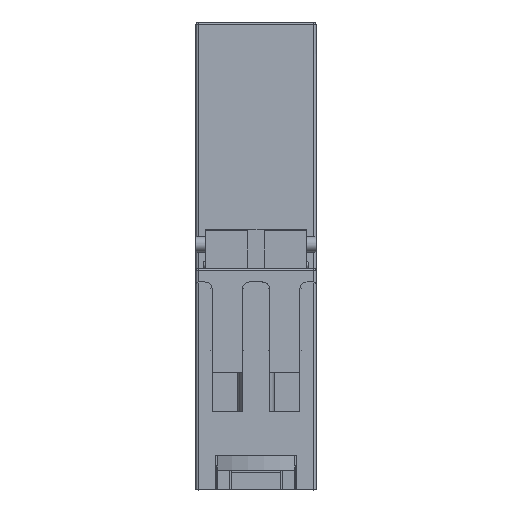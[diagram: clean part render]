
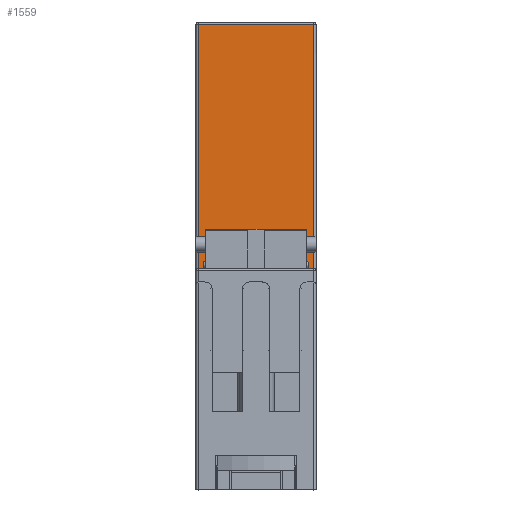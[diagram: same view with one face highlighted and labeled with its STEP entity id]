
A CAD part, left-side view. The second image highlights one B-rep face of the part: STEP entity #1559.
In plain terms, the highlighted planar face has unit normal (-1, 0, 0.009).
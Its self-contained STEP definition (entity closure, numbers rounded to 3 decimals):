
#864=PLANE('',#15522);
#1559=ADVANCED_FACE('',(#2388),#864,.T.);
#2388=FACE_OUTER_BOUND('',#3255,.T.);
#3255=EDGE_LOOP('',(#9809,#9810,#9811,#9812,#9813,#9814,#9815,#9816,#9817,
#9818,#9819,#9820));
#4048=LINE('',#31558,#5799);
#4067=LINE('',#31608,#5818);
#4074=LINE('',#31622,#5825);
#4167=LINE('',#31822,#5918);
#4442=LINE('',#32423,#6193);
#4451=LINE('',#32442,#6202);
#4453=LINE('',#32446,#6204);
#4727=LINE('',#33050,#6478);
#4728=LINE('',#33052,#6479);
#4839=LINE('',#33387,#6590);
#4840=LINE('',#33390,#6591);
#4841=LINE('',#33391,#6592);
#5799=VECTOR('',#16838,1.);
#5818=VECTOR('',#16873,1.);
#5825=VECTOR('',#16884,1.);
#5918=VECTOR('',#17013,1.);
#6193=VECTOR('',#17502,1.);
#6202=VECTOR('',#17523,1.);
#6204=VECTOR('',#17529,1.);
#6478=VECTOR('',#18129,1.);
#6479=VECTOR('',#18132,1.);
#6590=VECTOR('',#18459,1.);
#6591=VECTOR('',#18460,1.);
#6592=VECTOR('',#18461,1.);
#9809=ORIENTED_EDGE('',*,*,#14118,.T.);
#9810=ORIENTED_EDGE('',*,*,#14119,.T.);
#9811=ORIENTED_EDGE('',*,*,#13975,.F.);
#9812=ORIENTED_EDGE('',*,*,#13228,.F.);
#9813=ORIENTED_EDGE('',*,*,#13253,.F.);
#9814=ORIENTED_EDGE('',*,*,#13974,.F.);
#9815=ORIENTED_EDGE('',*,*,#13360,.F.);
#9816=ORIENTED_EDGE('',*,*,#13675,.F.);
#9817=ORIENTED_EDGE('',*,*,#13677,.F.);
#9818=ORIENTED_EDGE('',*,*,#13260,.F.);
#9819=ORIENTED_EDGE('',*,*,#13665,.F.);
#9820=ORIENTED_EDGE('',*,*,#14120,.T.);
#11744=VERTEX_POINT('',#31557);
#11745=VERTEX_POINT('',#31559);
#11766=VERTEX_POINT('',#31606);
#11771=VERTEX_POINT('',#31620);
#11773=VERTEX_POINT('',#31623);
#11861=VERTEX_POINT('',#31821);
#11862=VERTEX_POINT('',#31823);
#12080=VERTEX_POINT('',#32422);
#12084=VERTEX_POINT('',#32441);
#12252=VERTEX_POINT('',#33053);
#12312=VERTEX_POINT('',#33388);
#12313=VERTEX_POINT('',#33389);
#13228=EDGE_CURVE('',#11744,#11745,#4048,.T.);
#13253=EDGE_CURVE('',#11766,#11744,#4067,.T.);
#13260=EDGE_CURVE('',#11771,#11773,#4074,.T.);
#13360=EDGE_CURVE('',#11861,#11862,#4167,.T.);
#13665=EDGE_CURVE('',#12080,#11771,#4442,.T.);
#13675=EDGE_CURVE('',#12084,#11861,#4451,.T.);
#13677=EDGE_CURVE('',#11773,#12084,#4453,.T.);
#13974=EDGE_CURVE('',#11862,#11766,#4727,.T.);
#13975=EDGE_CURVE('',#11745,#12252,#4728,.T.);
#14118=EDGE_CURVE('',#12312,#12313,#4839,.T.);
#14119=EDGE_CURVE('',#12313,#12252,#4840,.T.);
#14120=EDGE_CURVE('',#12080,#12312,#4841,.T.);
#15522=AXIS2_PLACEMENT_3D('',#33392,#18462,#18463);
#16838=DIRECTION('',(-0.009,0.,-1.));
#16873=DIRECTION('',(0.,1.,0.));
#16884=DIRECTION('',(0.009,0.,1.));
#17013=DIRECTION('',(0.,1.,0.));
#17502=DIRECTION('',(0.,1.,0.));
#17523=DIRECTION('',(0.009,0.,1.));
#17529=DIRECTION('',(0.,1.,0.));
#18129=DIRECTION('',(-0.009,0.,-1.));
#18132=DIRECTION('',(0.,1.,0.));
#18459=DIRECTION('',(0.,1.,0.));
#18460=DIRECTION('',(-0.009,0.,-1.));
#18461=DIRECTION('',(0.009,0.,1.));
#18462=DIRECTION('',(-1.,0.,0.009));
#18463=DIRECTION('',(0.009,0.,1.));
#31557=CARTESIAN_POINT('',(26.853,14.45,29.75));
#31558=CARTESIAN_POINT('',(26.854,14.45,29.896));
#31559=CARTESIAN_POINT('',(26.8,14.45,23.75));
#31606=CARTESIAN_POINT('',(26.853,12.15,29.75));
#31608=CARTESIAN_POINT('',(26.853,15.7,29.75));
#31620=CARTESIAN_POINT('',(26.8,1.25,23.75));
#31622=CARTESIAN_POINT('',(27.1,1.25,57.75));
#31623=CARTESIAN_POINT('',(26.853,1.25,29.75));
#31821=CARTESIAN_POINT('',(26.861,3.55,30.65));
#31822=CARTESIAN_POINT('',(26.861,15.7,30.65));
#31823=CARTESIAN_POINT('',(26.861,12.15,30.65));
#32422=CARTESIAN_POINT('',(26.8,0.3,23.75));
#32423=CARTESIAN_POINT('',(26.8,1.45,23.75));
#32441=CARTESIAN_POINT('',(26.853,3.55,29.75));
#32442=CARTESIAN_POINT('',(27.1,3.55,57.75));
#32446=CARTESIAN_POINT('',(26.853,15.7,29.75));
#33050=CARTESIAN_POINT('',(27.1,12.15,57.75));
#33052=CARTESIAN_POINT('',(26.8,15.7,23.75));
#33053=CARTESIAN_POINT('',(26.8,15.4,23.75));
#33387=CARTESIAN_POINT('',(27.097,15.7,57.453));
#33388=CARTESIAN_POINT('',(27.097,0.3,57.453));
#33389=CARTESIAN_POINT('',(27.097,15.4,57.453));
#33390=CARTESIAN_POINT('',(27.1,15.4,57.75));
#33391=CARTESIAN_POINT('',(27.1,0.3,57.75));
#33392=CARTESIAN_POINT('',(27.1,15.7,57.75));
